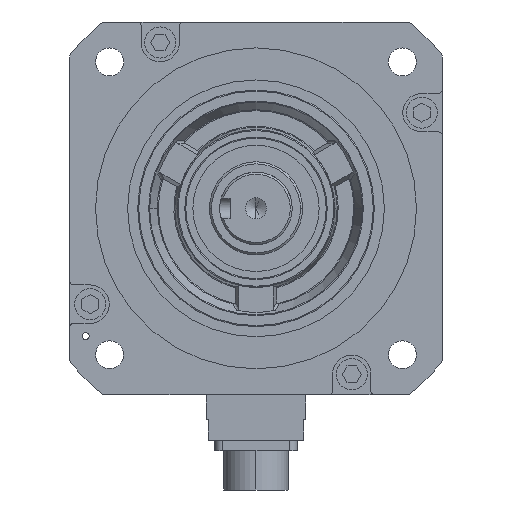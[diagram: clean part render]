
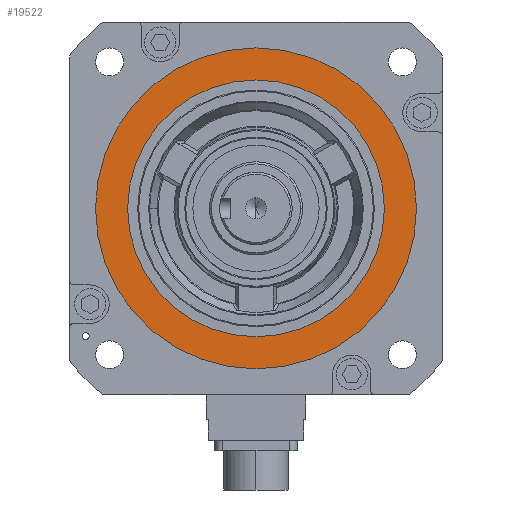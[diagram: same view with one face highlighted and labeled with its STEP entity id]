
A CAD part, left-side view. The second image highlights one B-rep face of the part: STEP entity #19522.
In plain terms, the highlighted planar face has unit normal (-1, 0, 0) as drawn and (0, 0, -1) by its records, which use the part's own axes.
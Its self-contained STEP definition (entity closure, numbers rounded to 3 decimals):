
#828 = DIRECTION ( 'NONE',  ( 0., 0., -1. ) ) ;
#1631 = EDGE_CURVE ( 'NONE', #60284, #48168, #4444, .T. ) ;
#4354 = AXIS2_PLACEMENT_3D ( 'NONE', #29148, #828, #19443 ) ;
#4444 = CIRCLE ( 'NONE', #55252, 77.5 ) ;
#6288 = ORIENTED_EDGE ( 'NONE', *, *, #22511, .T. ) ;
#7606 = CARTESIAN_POINT ( 'NONE',  ( 0., 0., 3.8 ) ) ;
#8453 = ORIENTED_EDGE ( 'NONE', *, *, #33917, .F. ) ;
#9347 = VERTEX_POINT ( 'NONE', #10408 ) ;
#10270 = EDGE_LOOP ( 'NONE', ( #43686, #8453 ) ) ;
#10408 = CARTESIAN_POINT ( 'NONE',  ( -62., 0., 3.8 ) ) ;
#12170 = DIRECTION ( 'NONE',  ( 1., 0., 0. ) ) ;
#12393 = DIRECTION ( 'NONE',  ( 1., 0., 0. ) ) ;
#18691 = CARTESIAN_POINT ( 'NONE',  ( 62., 0., 3.8 ) ) ;
#19443 = DIRECTION ( 'NONE',  ( -1., 0., 0. ) ) ;
#19522 = ADVANCED_FACE ( 'NONE', ( #22646, #55097 ), #38433, .T. ) ;
#22511 = EDGE_CURVE ( 'NONE', #9347, #54232, #26730, .T. ) ;
#22646 = FACE_BOUND ( 'NONE', #59866, .T. ) ;
#26730 = CIRCLE ( 'NONE', #44071, 62. ) ;
#27984 = EDGE_CURVE ( 'NONE', #54232, #9347, #57323, .T. ) ;
#29148 = CARTESIAN_POINT ( 'NONE',  ( 0., 62., 3.8 ) ) ;
#29196 = AXIS2_PLACEMENT_3D ( 'NONE', #55543, #36425, #50389 ) ;
#32435 = DIRECTION ( 'NONE',  ( 0., 0., 1. ) ) ;
#33917 = EDGE_CURVE ( 'NONE', #48168, #60284, #58393, .T. ) ;
#36274 = CARTESIAN_POINT ( 'NONE',  ( -77.5, 0., 3.8 ) ) ;
#36425 = DIRECTION ( 'NONE',  ( 0., 0., 1. ) ) ;
#36975 = DIRECTION ( 'NONE',  ( 1., 0., 0. ) ) ;
#38433 = PLANE ( 'NONE',  #4354 ) ;
#40679 = DIRECTION ( 'NONE',  ( 0., 0., 1. ) ) ;
#41076 = CARTESIAN_POINT ( 'NONE',  ( 0., 0., 3.8 ) ) ;
#43686 = ORIENTED_EDGE ( 'NONE', *, *, #1631, .F. ) ;
#44071 = AXIS2_PLACEMENT_3D ( 'NONE', #41076, #32435, #36975 ) ;
#44356 = CARTESIAN_POINT ( 'NONE',  ( 77.5, 0., 3.8 ) ) ;
#46041 = DIRECTION ( 'NONE',  ( 0., 0., 1. ) ) ;
#48168 = VERTEX_POINT ( 'NONE', #36274 ) ;
#50389 = DIRECTION ( 'NONE',  ( 1., 0., 0. ) ) ;
#54225 = ORIENTED_EDGE ( 'NONE', *, *, #27984, .T. ) ;
#54232 = VERTEX_POINT ( 'NONE', #18691 ) ;
#55097 = FACE_OUTER_BOUND ( 'NONE', #10270, .T. ) ;
#55252 = AXIS2_PLACEMENT_3D ( 'NONE', #7606, #46041, #12393 ) ;
#55543 = CARTESIAN_POINT ( 'NONE',  ( 0., 0., 3.8 ) ) ;
#57323 = CIRCLE ( 'NONE', #57367, 62. ) ;
#57367 = AXIS2_PLACEMENT_3D ( 'NONE', #59201, #40679, #12170 ) ;
#58393 = CIRCLE ( 'NONE', #29196, 77.5 ) ;
#59201 = CARTESIAN_POINT ( 'NONE',  ( 0., 0., 3.8 ) ) ;
#59866 = EDGE_LOOP ( 'NONE', ( #54225, #6288 ) ) ;
#60284 = VERTEX_POINT ( 'NONE', #44356 ) ;
